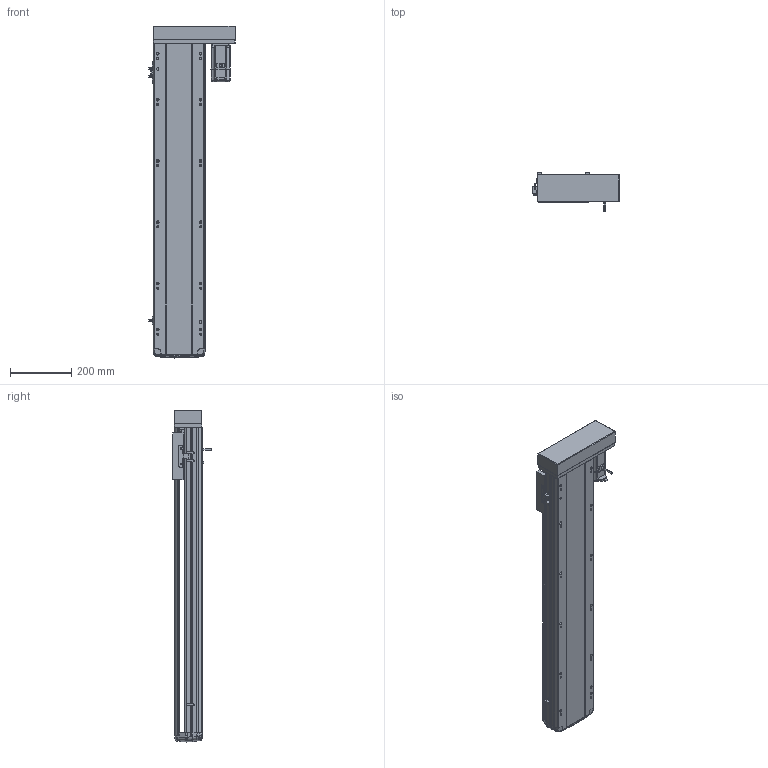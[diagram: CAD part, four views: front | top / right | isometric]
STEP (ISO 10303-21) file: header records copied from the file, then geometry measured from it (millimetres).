
FILE_DESCRIPTION (( 'STEP AP214' ), '1' );
FILE_NAME ('RTH17-XX-800-L-M40-C4.STEP', '2025-10-24T08:47:23', ( '' ), ( '' ), 'SwSTEP 2.0', 'SolidWorks 2018', '' );
FILE_SCHEMA (( 'AUTOMOTIVE_DESIGN' ));
Length unit declared in the file: millimetre
Products named in the file (10): N_M40^RTH17-XX-XX-L-M40-C4（方程式）; RTH17-XX-800-L-M40-C4; N_RTH17-L-008-P40电机安装板左转折^RTH17-XX-XX-L-M40-C4（方程式）; N_RTH17-GY-001P^RTH17-XX-XX-L-M40-C4（方程式）; N_RTH17-L-018盖子^RTH17-XX-XX-L-M40-C4（方程式）; N_RTH-BL-012 感应片(外置)^RTH17-XX-XX-L-M40-C4（方程式）; N_OMRON EE-SX672 換覜ん^RTH17-XX-XX-L-M40-C4ㄗ源最宒ㄘ; N_RTH17-M-011底座^RTH17-XX-XX-L-M40-C4（方程式）; N_RTH17-E-004丝杆螺母连接座^RTH17-XX-XX-L-M40-C4（方程式）; N_RTH17-M-007上盖^RTH17-XX-XX-L-M40-C4（方程式）
Assembly tree (11 placements, depth 2):
  RTH17-XX-800-L-M40-C4
    N_RTH17-M-011底座^RTH17-XX-XX-L-M40-C4（方程式）
    N_RTH17-M-007上盖^RTH17-XX-XX-L-M40-C4（方程式）
    N_M40^RTH17-XX-XX-L-M40-C4（方程式）
    N_OMRON EE-SX672 換覜ん^RTH17-XX-XX-L-M40-C4ㄗ源最宒ㄘ  x3
    N_RTH-BL-012 感应片(外置)^RTH17-XX-XX-L-M40-C4（方程式）
    N_RTH17-L-008-P40电机安装板左转折^RTH17-XX-XX-L-M40-C4（方程式）
    N_RTH17-L-018盖子^RTH17-XX-XX-L-M40-C4（方程式）
    N_RTH17-E-004丝杆螺母连接座^RTH17-XX-XX-L-M40-C4（方程式）
    N_RTH17-GY-001P^RTH17-XX-XX-L-M40-C4（方程式）
Bounding box: 281 x 127 x 1082.99 mm (x, y, z)
Volume: 9478183.9 mm3; surface area: 1215974.2 mm2
Topology: 13 solids, 15 shells, 1663 faces, 4629 edges, 3018 vertices
Faces by surface type: plane 835, cylinder 461, bspline 330, cone 28, torus 9
Entity records: 48562 total; most frequent: CARTESIAN_POINT 19635, ORIENTED_EDGE 6282, DIRECTION 5179, EDGE_CURVE 3145, VERTEX_POINT 2054, VECTOR 1765, LINE 1765, AXIS2_PLACEMENT_3D 1707
